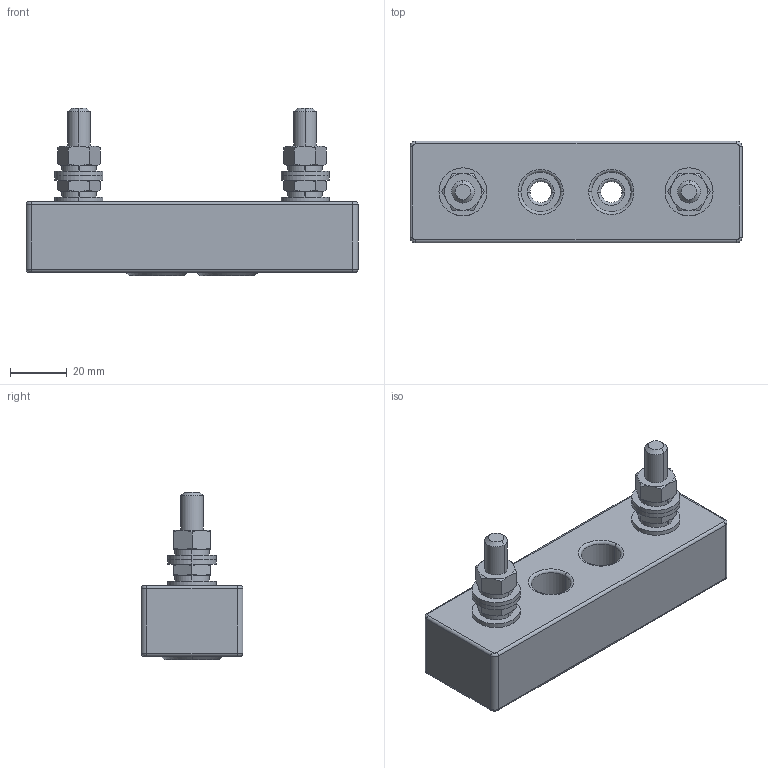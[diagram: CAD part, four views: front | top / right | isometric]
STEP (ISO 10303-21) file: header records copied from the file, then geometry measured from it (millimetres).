
FILE_DESCRIPTION (( 'STEP AP214' ), '1' );
FILE_NAME ('SP40T06.step', '2011-10-27T06:43:32', ( 'Radek Veselý' ), ( 'Siemens and Partners' ), 'SwSTEP 2.0', 'SolidWorks 2006303', '' );
FILE_SCHEMA (( 'AUTOMOTIVE_DESIGN' ));
Length unit declared in the file: millimetre
Products named in the file (1): SP40T06
Bounding box: 117.5 x 36 x 59.2 mm (x, y, z)
Volume: 100860.6 mm3; surface area: 28614 mm2
Topology: 17 solids, 17 shells, 346 faces, 768 edges, 466 vertices
Faces by surface type: plane 108, cylinder 106, cone 72, torus 60
Entity records: 14059 total; most frequent: CARTESIAN_POINT 2417, DIRECTION 1672, ORIENTED_EDGE 1536, EDGE_CURVE 768, AXIS2_PLACEMENT_3D 713, VERTEX_POINT 466, EDGE_LOOP 384, CIRCLE 366
